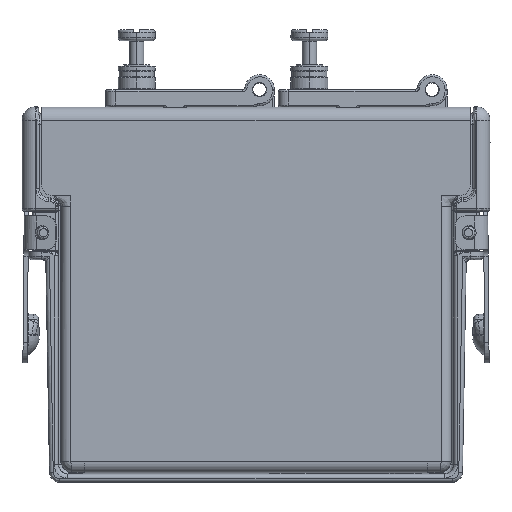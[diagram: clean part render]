
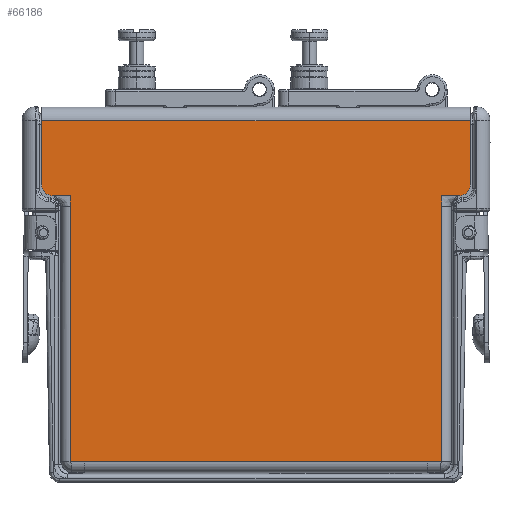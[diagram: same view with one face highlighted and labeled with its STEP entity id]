
A CAD part, left-side view. The second image highlights one B-rep face of the part: STEP entity #66186.
In plain terms, the highlighted planar face has unit normal (-1, 0, 0).
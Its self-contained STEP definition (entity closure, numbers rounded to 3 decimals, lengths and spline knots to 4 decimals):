
#55683=DIRECTION('',(0.,-1.,0.));
#55684=VECTOR('',#55683,3.179);
#55685=CARTESIAN_POINT('',(-0.4475,1.5895,2.68));
#55686=LINE('',#55685,#55684);
#56798=CARTESIAN_POINT('',(-0.4475,1.5095,2.204));
#56799=DIRECTION('',(-1.,0.,0.));
#56800=DIRECTION('',(0.,1.,0.));
#56801=AXIS2_PLACEMENT_3D('',#56798,#56799,#56800);
#56803=DIRECTION('',(0.,-1.,0.));
#56804=VECTOR('',#56803,0.133);
#56805=CARTESIAN_POINT('',(-0.4475,1.5095,2.124));
#56806=LINE('',#56805,#56804);
#56815=DIRECTION('',(0.,0.,-1.));
#56816=VECTOR('',#56815,0.476);
#56817=CARTESIAN_POINT('',(-0.4475,1.5895,2.68));
#56818=LINE('',#56817,#56816);
#56819=DIRECTION('',(0.,0.,1.));
#56820=VECTOR('',#56819,0.476);
#56821=CARTESIAN_POINT('',(-0.4475,-1.5895,2.204));
#56822=LINE('',#56821,#56820);
#56823=DIRECTION('',(0.,0.,1.));
#56824=VECTOR('',#56823,0.079);
#56825=CARTESIAN_POINT('',(-0.4475,-1.3765,2.045));
#56826=LINE('',#56825,#56824);
#56827=DIRECTION('',(0.,-1.,0.));
#56828=VECTOR('',#56827,0.105);
#56829=CARTESIAN_POINT('',(-0.4475,-1.2715,0.15));
#56830=LINE('',#56829,#56828);
#56831=DIRECTION('',(0.,-1.,0.));
#56832=VECTOR('',#56831,0.105);
#56833=CARTESIAN_POINT('',(-0.4475,1.3765,0.15));
#56834=LINE('',#56833,#56832);
#56835=DIRECTION('',(0.,0.,1.));
#56836=VECTOR('',#56835,0.079);
#56837=CARTESIAN_POINT('',(-0.4475,1.3765,2.045));
#56838=LINE('',#56837,#56836);
#56856=CARTESIAN_POINT('',(-0.4475,-1.5095,2.204));
#56857=DIRECTION('',(-1.,0.,0.));
#56858=DIRECTION('',(0.,0.,-1.));
#56859=AXIS2_PLACEMENT_3D('',#56856,#56857,#56858);
#56893=DIRECTION('',(0.,0.,1.));
#56894=VECTOR('',#56893,1.895);
#56895=CARTESIAN_POINT('',(-0.4475,1.3765,0.15));
#56896=LINE('',#56895,#56894);
#56952=DIRECTION('',(0.,-1.,0.));
#56953=VECTOR('',#56952,2.543);
#56954=CARTESIAN_POINT('',(-0.4475,1.2715,0.15));
#56955=LINE('',#56954,#56953);
#56968=DIRECTION('',(0.,0.,1.));
#56969=VECTOR('',#56968,1.895);
#56970=CARTESIAN_POINT('',(-0.4475,-1.3765,0.15));
#56971=LINE('',#56970,#56969);
#57003=DIRECTION('',(0.,-1.,0.));
#57004=VECTOR('',#57003,0.133);
#57005=CARTESIAN_POINT('',(-0.4475,-1.3765,2.124));
#57006=LINE('',#57005,#57004);
#58955=CARTESIAN_POINT('',(-0.4475,-1.5895,2.68));
#58956=VERTEX_POINT('',#58955);
#58957=CARTESIAN_POINT('',(-0.4475,1.5895,2.68));
#58958=VERTEX_POINT('',#58957);
#58987=CARTESIAN_POINT('',(-0.4475,1.2715,0.15));
#58988=CARTESIAN_POINT('',(-0.4475,-1.2715,0.15));
#58989=VERTEX_POINT('',#58987);
#58990=VERTEX_POINT('',#58988);
#58999=CARTESIAN_POINT('',(-0.4475,-1.3765,0.15));
#59000=VERTEX_POINT('',#58999);
#59011=CARTESIAN_POINT('',(-0.4475,1.3765,0.15));
#59012=VERTEX_POINT('',#59011);
#59068=CARTESIAN_POINT('',(-0.4475,1.5095,2.124));
#59070=VERTEX_POINT('',#59068);
#59073=CARTESIAN_POINT('',(-0.4475,1.5895,2.204));
#59074=VERTEX_POINT('',#59073);
#59076=CARTESIAN_POINT('',(-0.4475,-1.5895,2.204));
#59078=VERTEX_POINT('',#59076);
#59081=CARTESIAN_POINT('',(-0.4475,-1.5095,2.124));
#59082=VERTEX_POINT('',#59081);
#59119=CARTESIAN_POINT('',(-0.4475,-1.3765,2.045));
#59120=VERTEX_POINT('',#59119);
#59123=CARTESIAN_POINT('',(-0.4475,-1.3765,2.124));
#59124=VERTEX_POINT('',#59123);
#59131=CARTESIAN_POINT('',(-0.4475,1.3765,2.045));
#59132=CARTESIAN_POINT('',(-0.4475,1.3765,2.124));
#59133=VERTEX_POINT('',#59131);
#59134=VERTEX_POINT('',#59132);
#66155=CARTESIAN_POINT('',(-0.4475,0.,1.425));
#66156=DIRECTION('',(-1.,0.,0.));
#66157=DIRECTION('',(0.,1.,0.));
#66158=AXIS2_PLACEMENT_3D('',#66155,#66156,#66157);
#66159=PLANE('',#66158);
#66160=ORIENTED_EDGE('',*,*,#66135,.F.);
#66161=ORIENTED_EDGE('',*,*,#66120,.F.);
#66162=ORIENTED_EDGE('',*,*,#64858,.T.);
#66164=ORIENTED_EDGE('',*,*,#66163,.F.);
#66166=ORIENTED_EDGE('',*,*,#66165,.F.);
#66168=ORIENTED_EDGE('',*,*,#66167,.F.);
#66170=ORIENTED_EDGE('',*,*,#66169,.F.);
#66172=ORIENTED_EDGE('',*,*,#66171,.F.);
#66174=ORIENTED_EDGE('',*,*,#66173,.F.);
#66176=ORIENTED_EDGE('',*,*,#66175,.F.);
#66178=ORIENTED_EDGE('',*,*,#66177,.F.);
#66180=ORIENTED_EDGE('',*,*,#66179,.T.);
#66182=ORIENTED_EDGE('',*,*,#66181,.T.);
#66183=ORIENTED_EDGE('',*,*,#66146,.F.);
#66184=EDGE_LOOP('',(#66160,#66161,#66162,#66164,#66166,#66168,#66170,#66172,
#66174,#66176,#66178,#66180,#66182,#66183));
#66185=FACE_OUTER_BOUND('',#66184,.F.);
#66186=ADVANCED_FACE('',(#66185),#66159,.T.);
#56802=CIRCLE('',#56801,0.08);
#56860=CIRCLE('',#56859,0.08);
#64858=EDGE_CURVE('',#58958,#58956,#55686,.T.);
#66120=EDGE_CURVE('',#58958,#59074,#56818,.T.);
#66135=EDGE_CURVE('',#59074,#59070,#56802,.T.);
#66146=EDGE_CURVE('',#59070,#59134,#56806,.T.);
#66163=EDGE_CURVE('',#59078,#58956,#56822,.T.);
#66165=EDGE_CURVE('',#59082,#59078,#56860,.T.);
#66167=EDGE_CURVE('',#59124,#59082,#57006,.T.);
#66169=EDGE_CURVE('',#59120,#59124,#56826,.T.);
#66171=EDGE_CURVE('',#59000,#59120,#56971,.T.);
#66173=EDGE_CURVE('',#58990,#59000,#56830,.T.);
#66175=EDGE_CURVE('',#58989,#58990,#56955,.T.);
#66177=EDGE_CURVE('',#59012,#58989,#56834,.T.);
#66179=EDGE_CURVE('',#59012,#59133,#56896,.T.);
#66181=EDGE_CURVE('',#59133,#59134,#56838,.T.);
